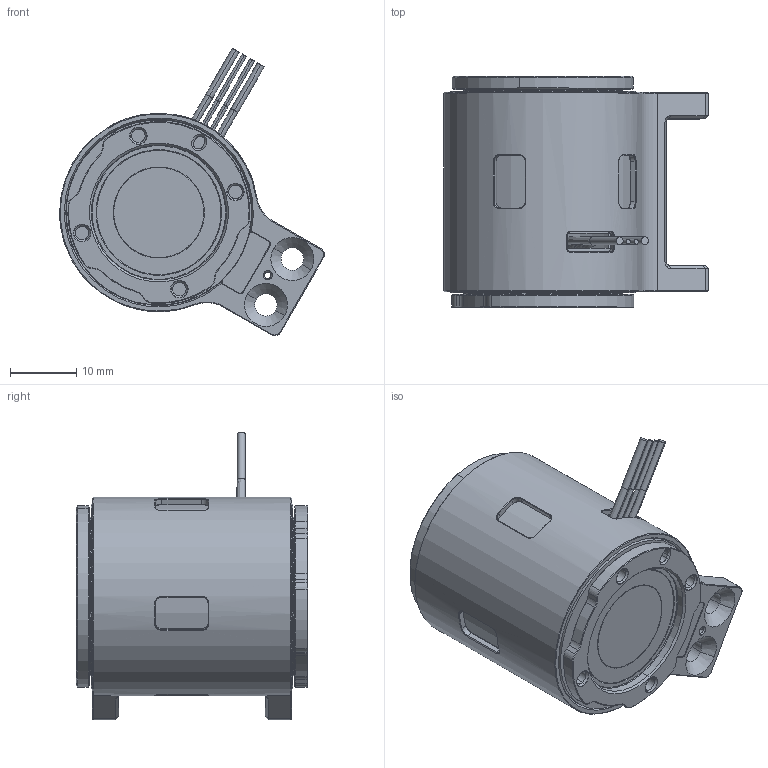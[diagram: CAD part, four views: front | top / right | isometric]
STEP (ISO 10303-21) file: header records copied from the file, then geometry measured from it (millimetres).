
FILE_DESCRIPTION((''),'2;1');
FILE_NAME('30BZ-WXT_ASM','2026-09-01T12:00:03',('wenbo'),(''),'CREO PARAMETRIC BY PTC INC, 2024325','CREO PARAMETRIC BY PTC INC, 2024325','');
FILE_SCHEMA(('CONFIG_CONTROL_DESIGN'));
Length unit declared in the file: millimetre
Products named in the file (19): 063000000011_1_1; 061100000001_ASM_2_ASM_1_ASM; 060400000003_ASM_8_ASM_1_ASM; 065600000011_7_1; 064200000003_7_1; 064300000003_1_1; 063500000003_1_1; 060600000004_ASM_15_ASM_1_ASM; 064200000004_122_1; 063500000005_1_1; 0235_1_1; 065400000001_17_1; 060600000003_ASM_8_ASM_1_ASM; 065400000013_1_1; 060200000013_ASM_65_ASM_1_ASM; DIANJINEIBU_1; ASM0007_ASM_1_ASM; YUANZHU; 30BZ-WXT_ASM
Assembly tree (26 placements, depth 6):
  30BZ-WXT_ASM
    ASM0007_ASM_1_ASM
      060200000013_ASM_65_ASM_1_ASM
        060400000003_ASM_8_ASM_1_ASM
          061100000001_ASM_2_ASM_1_ASM
            063000000011_1_1
        065600000011_7_1
        060600000004_ASM_15_ASM_1_ASM
          064200000003_7_1
          064300000003_1_1  x8
          063500000003_1_1
        060600000003_ASM_8_ASM_1_ASM
          064200000004_122_1
          063500000005_1_1
          0235_1_1
          065400000001_17_1
        065400000013_1_1  x2
      DIANJINEIBU_1
    YUANZHU
Bounding box: 40.03 x 35 x 43.45 mm (x, y, z)
Volume: 20370.6 mm3; surface area: 17198.5 mm2
Topology: 20 solids, 28 shells, 886 faces, 2404 edges, 1564 vertices
Faces by surface type: plane 245, cone 240, cylinder 237, bspline 104, torus 60
Entity records: 36816 total; most frequent: CARTESIAN_POINT 15514, DIRECTION 4530, ORIENTED_EDGE 4332, EDGE_CURVE 2214, AXIS2_PLACEMENT_3D 1785, VERTEX_POINT 1434, CIRCLE 996, VECTOR 960
